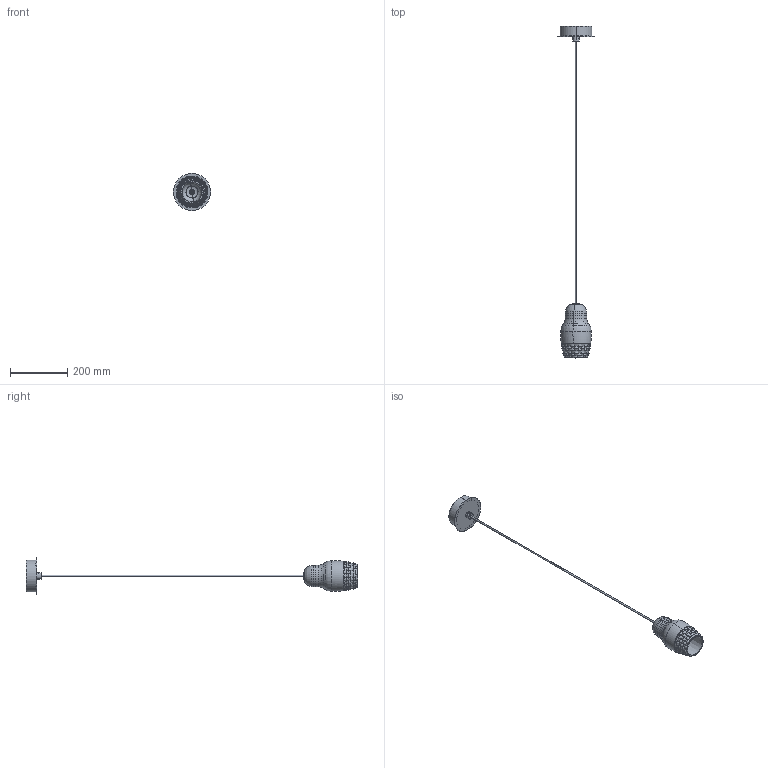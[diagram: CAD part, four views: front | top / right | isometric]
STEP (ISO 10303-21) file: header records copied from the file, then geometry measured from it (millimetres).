
FILE_DESCRIPTION (( 'STEP AP203' ), '1' );
FILE_NAME ('SPFEDORA01-PER 3D.STEP', '2024-05-29T10:56:25', ( '' ), ( '' ), 'SwSTEP 2.0', 'SolidWorks 2024', '' );
FILE_SCHEMA (( 'CONFIG_CONTROL_DESIGN' ));
Length unit declared in the file: millimetre
Products named in the file (11): FEDORA-SP1-1-5-1-01; FEDORA-SP1-2; FEDORA-SP1-1-5-01; FEDORA-SP1-2-01_Default<按加工>; FEDORA-SP1-2-04; SPFEDORA01-PER 3D; FEDORA-SP1-1-5; FEDORA-SP1-1-5-1; FEDORA-SP1-1; FEDORA-SP-WIRE-CE-3.5M_默认; FEDORA-SP1-2-03
Assembly tree (10 placements, depth 4):
  SPFEDORA01-PER 3D
    FEDORA-SP1-2
      FEDORA-SP1-2-01_Default<按加工>
      FEDORA-SP1-2-04
      FEDORA-SP1-2-03
    FEDORA-SP1-1
      FEDORA-SP-WIRE-CE-3.5M_默认
    FEDORA-SP1-1-5
      FEDORA-SP1-1-5-1
        FEDORA-SP1-1-5-1-01
      FEDORA-SP1-1-5-01
Bounding box: 130 x 1162.53 x 130 mm (x, y, z)
Volume: 289040.9 mm3; surface area: 221075.5 mm2
Topology: 7 solids, 7 shells, 389 faces, 947 edges, 576 vertices
Faces by surface type: bspline 199, torus 105, cylinder 35, plane 34, cone 16
Entity records: 26873 total; most frequent: CARTESIAN_POINT 17743, ORIENTED_EDGE 1894, DIRECTION 1308, EDGE_CURVE 947, VERTEX_POINT 576, AXIS2_PLACEMENT_3D 536, EDGE_LOOP 405, FACE_OUTER_BOUND 389
